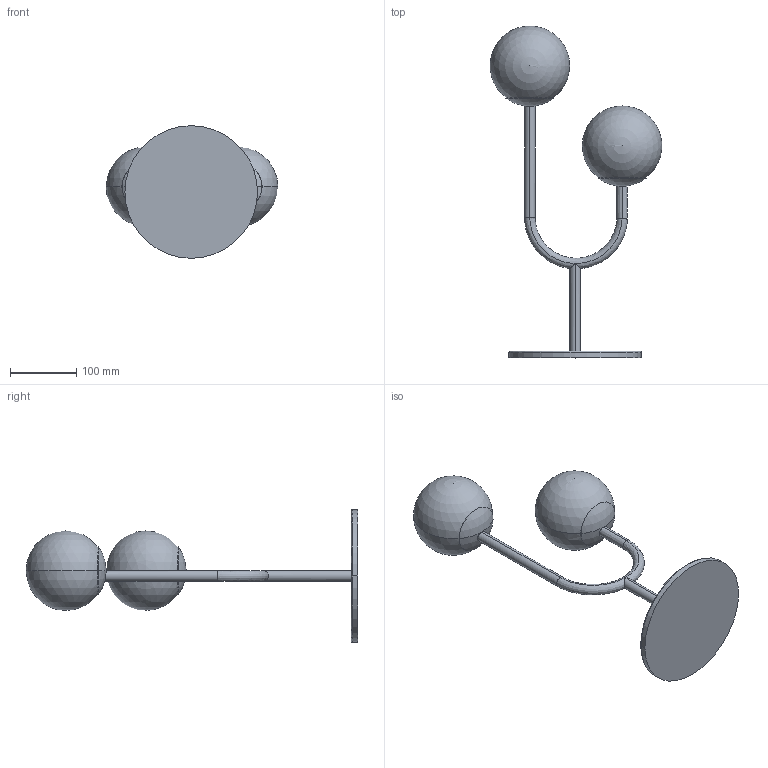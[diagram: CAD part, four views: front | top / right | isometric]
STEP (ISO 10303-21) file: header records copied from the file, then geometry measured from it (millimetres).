
FILE_DESCRIPTION (( 'STEP AP203' ), '1' );
FILE_NAME ('DECL3_Decor 2 tavolo.STEP', '2024-08-06T08:43:48', ( '' ), ( '' ), 'SwSTEP 2.0', 'SolidWorks 2022', '' );
FILE_SCHEMA (( 'CONFIG_CONTROL_DESIGN' ));
Length unit declared in the file: millimetre
Products named in the file (2): DECL3_Decor 2 tavolo; TAVOLO1
Assembly tree (1 placements, depth 2):
  DECL3_Decor 2 tavolo
    TAVOLO1
Bounding box: 258.87 x 500.62 x 200 mm (x, y, z)
Volume: 2243996.3 mm3; surface area: 187748.9 mm2
Topology: 1 solids, 1 shells, 30 faces, 72 edges, 42 vertices
Faces by surface type: sphere 8, cylinder 6, torus 4, plane 4, bspline 4, cone 4
Entity records: 1328 total; most frequent: CARTESIAN_POINT 511, DIRECTION 148, ORIENTED_EDGE 124, AXIS2_PLACEMENT_3D 69, EDGE_CURVE 62, CIRCLE 39, VERTEX_POINT 36, EDGE_LOOP 32
